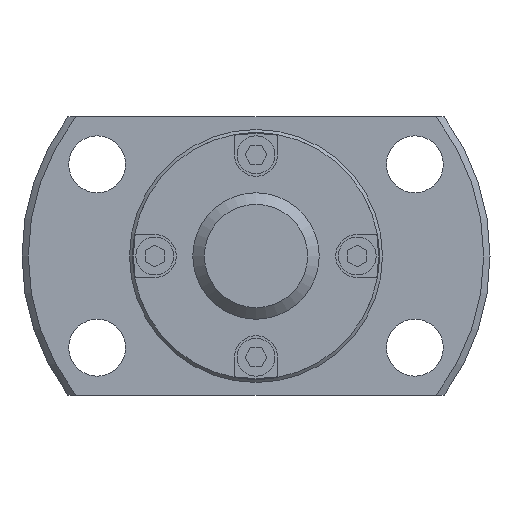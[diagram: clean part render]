
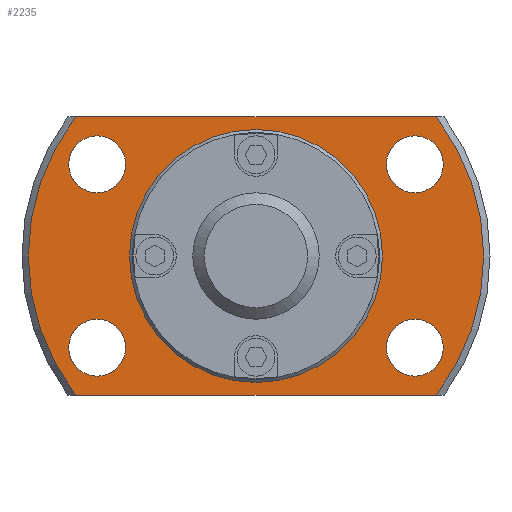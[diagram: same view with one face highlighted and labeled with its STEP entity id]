
A CAD part, left-side view. The second image highlights one B-rep face of the part: STEP entity #2235.
In plain terms, the highlighted planar face has unit normal (-1, 0, 0).
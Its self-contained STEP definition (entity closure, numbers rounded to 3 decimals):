
#68=LINE('',#3461,#284);
#69=LINE('',#3465,#285);
#284=VECTOR('',#2766,1000.);
#285=VECTOR('',#2769,1000.);
#605=ORIENTED_EDGE('',*,*,#1201,.F.);
#606=ORIENTED_EDGE('',*,*,#1202,.F.);
#607=ORIENTED_EDGE('',*,*,#1203,.F.);
#608=ORIENTED_EDGE('',*,*,#1204,.F.);
#609=ORIENTED_EDGE('',*,*,#1187,.F.);
#610=ORIENTED_EDGE('',*,*,#1205,.T.);
#611=ORIENTED_EDGE('',*,*,#1206,.F.);
#612=ORIENTED_EDGE('',*,*,#1207,.T.);
#613=ORIENTED_EDGE('',*,*,#1200,.T.);
#1187=EDGE_CURVE('',#1489,#1490,#1670,.T.);
#1200=EDGE_CURVE('',#1501,#1501,#1678,.T.);
#1201=EDGE_CURVE('',#1502,#1502,#1679,.F.);
#1202=EDGE_CURVE('',#1503,#1503,#1680,.F.);
#1203=EDGE_CURVE('',#1504,#1504,#1681,.F.);
#1204=EDGE_CURVE('',#1505,#1505,#1682,.F.);
#1205=EDGE_CURVE('',#1489,#1506,#68,.T.);
#1206=EDGE_CURVE('',#1507,#1506,#1683,.T.);
#1207=EDGE_CURVE('',#1507,#1490,#69,.T.);
#1489=VERTEX_POINT('',#3409);
#1490=VERTEX_POINT('',#3411);
#1501=VERTEX_POINT('',#3451);
#1502=VERTEX_POINT('',#3454);
#1503=VERTEX_POINT('',#3456);
#1504=VERTEX_POINT('',#3458);
#1505=VERTEX_POINT('',#3460);
#1506=VERTEX_POINT('',#3462);
#1507=VERTEX_POINT('',#3464);
#1670=CIRCLE('',#2418,18.);
#1678=CIRCLE('',#2433,9.75);
#1679=CIRCLE('',#2435,2.25);
#1680=CIRCLE('',#2436,2.25);
#1681=CIRCLE('',#2437,2.25);
#1682=CIRCLE('',#2438,2.25);
#1683=CIRCLE('',#2439,18.);
#1764=EDGE_LOOP('',(#605));
#1765=EDGE_LOOP('',(#606));
#1766=EDGE_LOOP('',(#607));
#1767=EDGE_LOOP('',(#608));
#1768=EDGE_LOOP('',(#609,#610,#611,#612));
#1769=EDGE_LOOP('',(#613));
#1958=FACE_BOUND('',#1764,.T.);
#1959=FACE_BOUND('',#1765,.T.);
#1960=FACE_BOUND('',#1766,.T.);
#1961=FACE_BOUND('',#1767,.T.);
#1962=FACE_BOUND('',#1768,.T.);
#1963=FACE_BOUND('',#1769,.T.);
#2124=PLANE('',#2434);
#2235=ADVANCED_FACE('',(#1958,#1959,#1960,#1961,#1962,#1963),#2124,.F.);
#2418=AXIS2_PLACEMENT_3D('',#3410,#2722,#2723);
#2433=AXIS2_PLACEMENT_3D('',#3450,#2754,#2755);
#2434=AXIS2_PLACEMENT_3D('',#3452,#2756,#2757);
#2435=AXIS2_PLACEMENT_3D('',#3453,#2758,#2759);
#2436=AXIS2_PLACEMENT_3D('',#3455,#2760,#2761);
#2437=AXIS2_PLACEMENT_3D('',#3457,#2762,#2763);
#2438=AXIS2_PLACEMENT_3D('',#3459,#2764,#2765);
#2439=AXIS2_PLACEMENT_3D('',#3463,#2767,#2768);
#2722=DIRECTION('',(1.,0.,0.));
#2723=DIRECTION('',(0.,0.,-1.));
#2754=DIRECTION('',(1.,0.,0.));
#2755=DIRECTION('',(0.,0.,-1.));
#2756=DIRECTION('',(1.,0.,0.));
#2757=DIRECTION('',(0.,0.,-1.));
#2758=DIRECTION('',(1.,0.,0.));
#2759=DIRECTION('',(0.,0.,-1.));
#2760=DIRECTION('',(1.,0.,0.));
#2761=DIRECTION('',(0.,0.,-1.));
#2762=DIRECTION('',(1.,0.,0.));
#2763=DIRECTION('',(0.,0.,-1.));
#2764=DIRECTION('',(1.,0.,0.));
#2765=DIRECTION('',(0.,0.,-1.));
#2766=DIRECTION('',(0.,-1.,0.));
#2767=DIRECTION('',(1.,0.,0.));
#2768=DIRECTION('',(0.,0.,-1.));
#2769=DIRECTION('',(0.,1.,0.));
#3409=CARTESIAN_POINT('',(13.,14.248,-11.));
#3410=CARTESIAN_POINT('',(13.,0.,0.));
#3411=CARTESIAN_POINT('',(13.,14.248,11.));
#3450=CARTESIAN_POINT('',(13.,0.,0.));
#3451=CARTESIAN_POINT('',(13.,0.,-9.75));
#3452=CARTESIAN_POINT('',(13.,9.75,0.));
#3453=CARTESIAN_POINT('',(13.,-12.557,-7.25));
#3454=CARTESIAN_POINT('',(13.,-12.557,-9.5));
#3455=CARTESIAN_POINT('',(13.,-12.557,7.25));
#3456=CARTESIAN_POINT('',(13.,-12.557,5.));
#3457=CARTESIAN_POINT('',(13.,12.557,-7.25));
#3458=CARTESIAN_POINT('',(13.,12.557,-9.5));
#3459=CARTESIAN_POINT('',(13.,12.557,7.25));
#3460=CARTESIAN_POINT('',(13.,12.557,5.));
#3461=CARTESIAN_POINT('',(13.,9.75,-11.));
#3462=CARTESIAN_POINT('',(13.,-14.248,-11.));
#3463=CARTESIAN_POINT('',(13.,0.,0.));
#3464=CARTESIAN_POINT('',(13.,-14.248,11.));
#3465=CARTESIAN_POINT('',(13.,9.75,11.));
